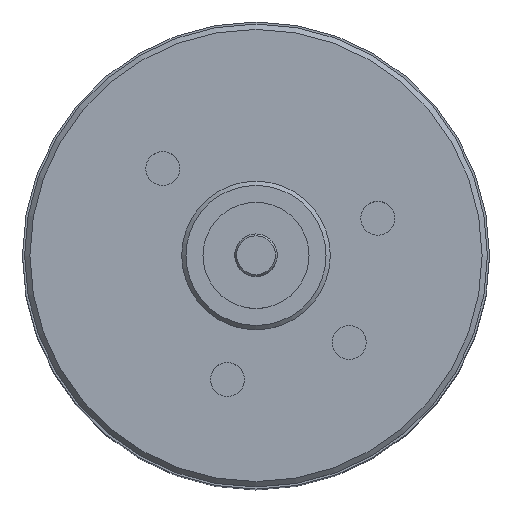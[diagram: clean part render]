
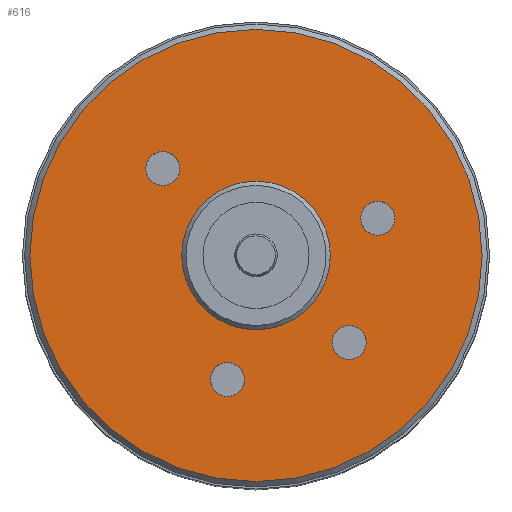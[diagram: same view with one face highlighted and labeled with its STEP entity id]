
A CAD part, top view. The second image highlights one B-rep face of the part: STEP entity #616.
In plain terms, the highlighted planar face has unit normal (0, 0, 1).
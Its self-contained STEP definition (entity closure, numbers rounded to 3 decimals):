
#616=ADVANCED_FACE('',(#815,#816,#817,#818,#819,#820),#729,.T.);
#729=PLANE('',#1933);
#815=FACE_BOUND('',#908,.T.);
#816=FACE_BOUND('',#909,.T.);
#817=FACE_BOUND('',#910,.T.);
#818=FACE_BOUND('',#911,.T.);
#819=FACE_BOUND('',#912,.T.);
#820=FACE_BOUND('',#913,.T.);
#908=EDGE_LOOP('',(#1077));
#909=EDGE_LOOP('',(#1078));
#910=EDGE_LOOP('',(#1079));
#911=EDGE_LOOP('',(#1080));
#912=EDGE_LOOP('',(#1081));
#913=EDGE_LOOP('',(#1082));
#1077=ORIENTED_EDGE('',*,*,#1664,.F.);
#1078=ORIENTED_EDGE('',*,*,#1665,.T.);
#1079=ORIENTED_EDGE('',*,*,#1666,.T.);
#1080=ORIENTED_EDGE('',*,*,#1667,.T.);
#1081=ORIENTED_EDGE('',*,*,#1668,.T.);
#1082=ORIENTED_EDGE('',*,*,#1669,.T.);
#1506=VERTEX_POINT('',#2485);
#1507=VERTEX_POINT('',#2487);
#1508=VERTEX_POINT('',#2489);
#1509=VERTEX_POINT('',#2491);
#1510=VERTEX_POINT('',#2493);
#1511=VERTEX_POINT('',#2495);
#1664=EDGE_CURVE('',#1506,#1506,#1879,.T.);
#1665=EDGE_CURVE('',#1507,#1507,#1880,.T.);
#1666=EDGE_CURVE('',#1508,#1508,#1881,.T.);
#1667=EDGE_CURVE('',#1509,#1509,#1882,.T.);
#1668=EDGE_CURVE('',#1510,#1510,#1883,.T.);
#1669=EDGE_CURVE('',#1511,#1511,#1884,.T.);
#1879=CIRCLE('',#1927,3.5);
#1880=CIRCLE('',#1928,0.8);
#1881=CIRCLE('',#1929,0.8);
#1882=CIRCLE('',#1930,0.8);
#1883=CIRCLE('',#1931,0.8);
#1884=CIRCLE('',#1932,10.65);
#1927=AXIS2_PLACEMENT_3D('',#2484,#2088,#2089);
#1928=AXIS2_PLACEMENT_3D('',#2486,#2090,#2091);
#1929=AXIS2_PLACEMENT_3D('',#2488,#2092,#2093);
#1930=AXIS2_PLACEMENT_3D('',#2490,#2094,#2095);
#1931=AXIS2_PLACEMENT_3D('',#2492,#2096,#2097);
#1932=AXIS2_PLACEMENT_3D('',#2494,#2098,#2099);
#1933=AXIS2_PLACEMENT_3D('',#2496,#2100,#2101);
#2088=DIRECTION('',(0.,0.,1.));
#2089=DIRECTION('',(1.,0.,0.));
#2090=DIRECTION('',(0.,0.,-1.));
#2091=DIRECTION('',(-1.,0.,0.));
#2092=DIRECTION('',(0.,0.,-1.));
#2093=DIRECTION('',(-1.,0.,0.));
#2094=DIRECTION('',(0.,0.,-1.));
#2095=DIRECTION('',(-1.,0.,0.));
#2096=DIRECTION('',(0.,0.,-1.));
#2097=DIRECTION('',(-1.,0.,0.));
#2098=DIRECTION('',(0.,0.,1.));
#2099=DIRECTION('',(1.,0.,0.));
#2100=DIRECTION('',(0.,0.,1.));
#2101=DIRECTION('',(1.,0.,0.));
#2484=CARTESIAN_POINT('',(0.,0.,0.));
#2485=CARTESIAN_POINT('',(3.5,0.,0.));
#2486=CARTESIAN_POINT('',(4.388,-4.092,0.));
#2487=CARTESIAN_POINT('',(3.588,-4.092,0.));
#2488=CARTESIAN_POINT('',(5.738,1.754,0.));
#2489=CARTESIAN_POINT('',(4.938,1.754,0.));
#2490=CARTESIAN_POINT('',(-1.35,-5.846,0.));
#2491=CARTESIAN_POINT('',(-2.15,-5.846,0.));
#2492=CARTESIAN_POINT('',(-4.388,4.092,0.));
#2493=CARTESIAN_POINT('',(-5.188,4.092,0.));
#2494=CARTESIAN_POINT('',(0.,0.,0.));
#2495=CARTESIAN_POINT('',(10.65,0.,0.));
#2496=CARTESIAN_POINT('',(11.,0.,0.));
